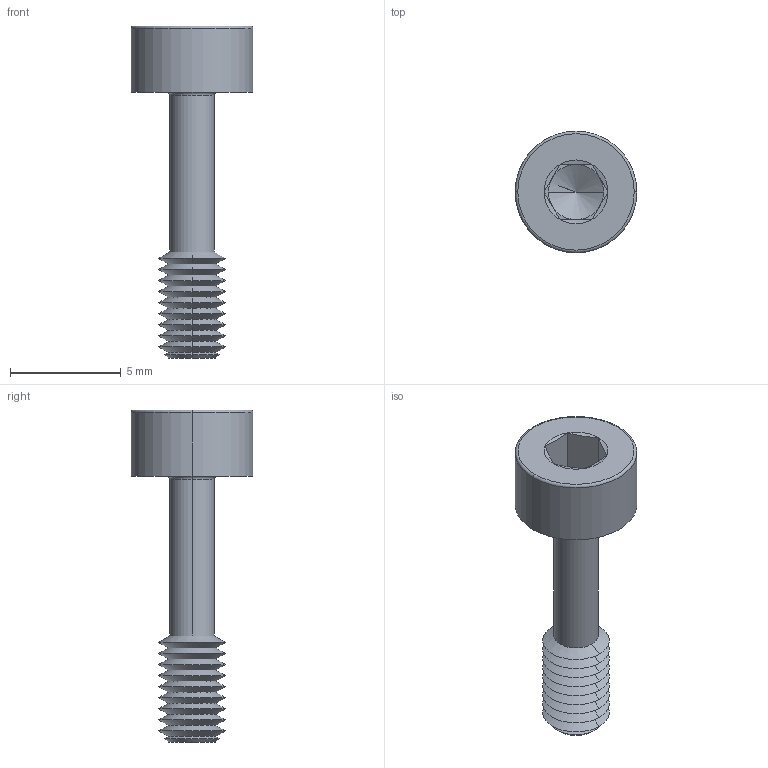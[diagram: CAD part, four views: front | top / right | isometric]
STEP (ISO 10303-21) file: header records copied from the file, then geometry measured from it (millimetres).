
FILE_DESCRIPTION (( 'STEP AP203' ), '1' );
FILE_NAME ('P0154.030-012-BL.step', '2024-06-17T11:22:33', ( '' ), ( '' ), 'SwSTEP 2.0', 'SolidWorks 2019', '' );
FILE_SCHEMA (( 'CONFIG_CONTROL_DESIGN' ));
Length unit declared in the file: millimetre
Products named in the file (1): P0154.030-012-BL
Bounding box: 5.5 x 5.5 x 15 mm (x, y, z)
Volume: 103.8 mm3; surface area: 242.1 mm2
Topology: 1 solids, 1 shells, 71 faces, 144 edges, 75 vertices
Faces by surface type: cone 48, plane 15, torus 4, cylinder 4
Entity records: 1887 total; most frequent: DIRECTION 352, CARTESIAN_POINT 315, ORIENTED_EDGE 284, AXIS2_PLACEMENT_3D 144, EDGE_CURVE 142, VERTEX_POINT 75, EDGE_LOOP 73, CIRCLE 72
